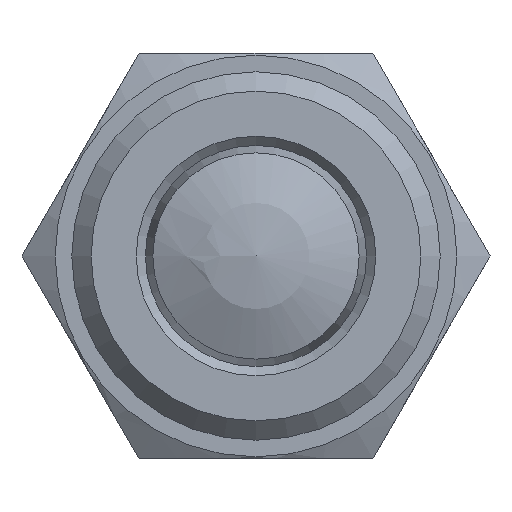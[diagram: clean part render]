
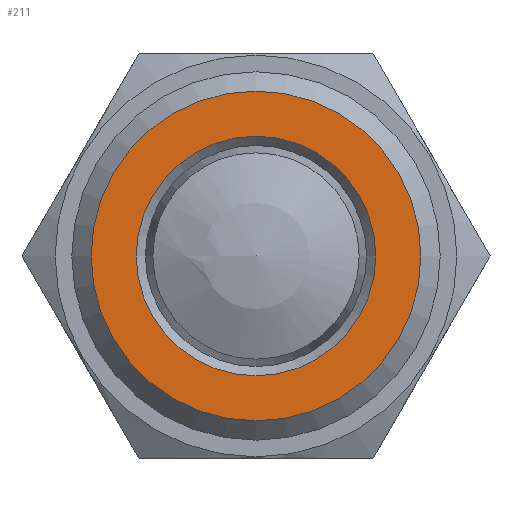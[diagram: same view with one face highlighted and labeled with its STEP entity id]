
A CAD part, front view. The second image highlights one B-rep face of the part: STEP entity #211.
In plain terms, the highlighted planar face has unit normal (0, -1, 0).
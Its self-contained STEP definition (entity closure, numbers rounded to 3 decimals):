
#211 = ADVANCED_FACE( '', ( #252, #253 ), #254, .F. );
#252 = FACE_BOUND( '', #345, .T. );
#253 = FACE_OUTER_BOUND( '', #346, .T. );
#254 = PLANE( '', #347 );
#345 = EDGE_LOOP( '', ( #464 ) );
#346 = EDGE_LOOP( '', ( #465 ) );
#347 = AXIS2_PLACEMENT_3D( '', #466, #467, #468 );
#464 = ORIENTED_EDGE( '', *, *, #629, .F. );
#465 = ORIENTED_EDGE( '', *, *, #630, .T. );
#466 = CARTESIAN_POINT( '', ( 8.95, 0., 0. ) );
#467 = DIRECTION( '', ( 0., 1., 0. ) );
#468 = DIRECTION( '', ( 0., 0., 1. ) );
#629 = EDGE_CURVE( '', #686, #686, #687, .T. );
#630 = EDGE_CURVE( '', #688, #688, #689, .T. );
#686 = VERTEX_POINT( '', #882 );
#687 = CIRCLE( '', #883, 6.5 );
#688 = VERTEX_POINT( '', #884 );
#689 = CIRCLE( '', #885, 8.95 );
#882 = CARTESIAN_POINT( '', ( 0., 0., -6.5 ) );
#883 = AXIS2_PLACEMENT_3D( '', #963, #964, #965 );
#884 = CARTESIAN_POINT( '', ( 0., 0., -8.95 ) );
#885 = AXIS2_PLACEMENT_3D( '', #966, #967, #968 );
#963 = CARTESIAN_POINT( '', ( 0., 0., 0. ) );
#964 = DIRECTION( '', ( 0., -1., 0. ) );
#965 = DIRECTION( '', ( 0., 0., -1. ) );
#966 = CARTESIAN_POINT( '', ( 0., 0., 0. ) );
#967 = DIRECTION( '', ( 0., -1., 0. ) );
#968 = DIRECTION( '', ( 0., 0., -1. ) );
